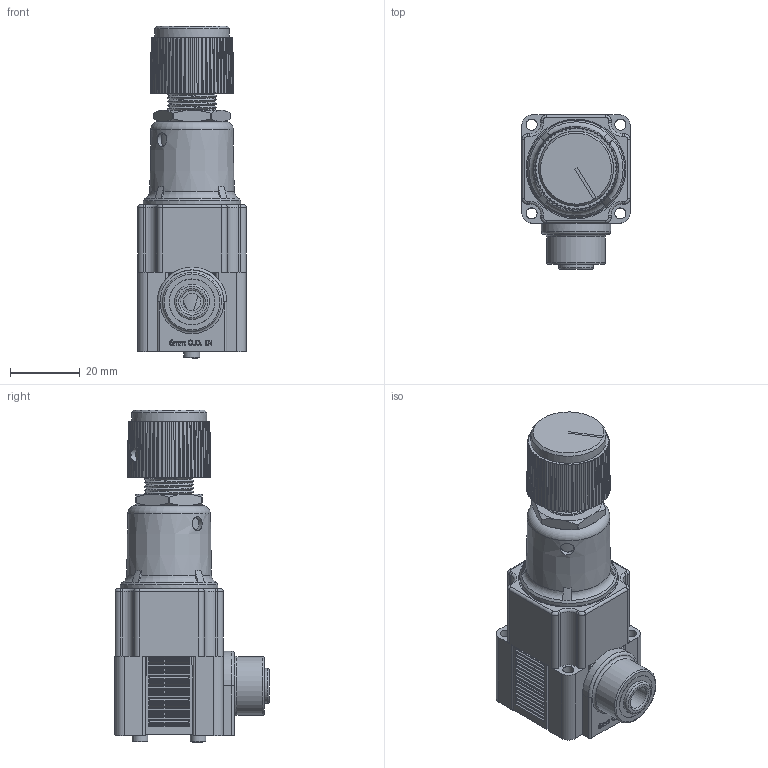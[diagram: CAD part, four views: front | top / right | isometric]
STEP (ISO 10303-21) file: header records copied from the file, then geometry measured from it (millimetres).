
FILE_DESCRIPTION(/* description */ (''),/* implementation_level */ '2;1');
FILE_NAME(/* name */ 'K:\Normteile INVENTOR\Air-Logic\Regulators\R6000\R 6___ 8 Push-In Fitting for 6mm O.D. Tube In.igs.ipt.stp',/* time_stamp */ '2020-05-27T10:57:50+02:00',/* author */ ('Paul'),/* organization */ (''),/* preprocessor_version */ 'ST-DEVELOPER v18',/* originating_system */ 'Autodesk Inventor 2020',/* authorisation */ '');
FILE_SCHEMA (('AUTOMOTIVE_DESIGN { 1 0 10303 214 3 1 1 }'));
Length unit declared in the file: inch
Products named in the file (1): R 6___ 8 Push-In Fitting for 6mm O.D. Tube In.igs
Bounding box: 31.19 x 44.31 x 95.02 mm (x, y, z)
Volume: 58953.2 mm3; surface area: 19238.3 mm2
Topology: 1 solids, 1 shells, 1095 faces, 2849 edges, 1843 vertices
Faces by surface type: plane 536, cylinder 352, bspline 88, cone 83, torus 36
Full cylindrical faces by diameter (mm): 1.194 x1, 2.032 x1, 3.124 x2, 3.175 x8, 3.988 x1, 4.064 x1, 4.521 x2, 4.953 x1, 6.553 x1, 8.382 x2, 9.169 x1, 9.398 x1, 10.033 x1, 12.903 x1, 13.081 x1, 13.157 x1, 16.764 x1, 19.406 x1, 21.476 x1, 27.94 x1, 28.575 x1
Entity records: 40323 total; most frequent: CARTESIAN_POINT 12133, ORIENTED_EDGE 5698, DIRECTION 5687, EDGE_CURVE 2849, AXIS2_PLACEMENT_3D 2147, VERTEX_POINT 1843, LINE 1393, VECTOR 1393
